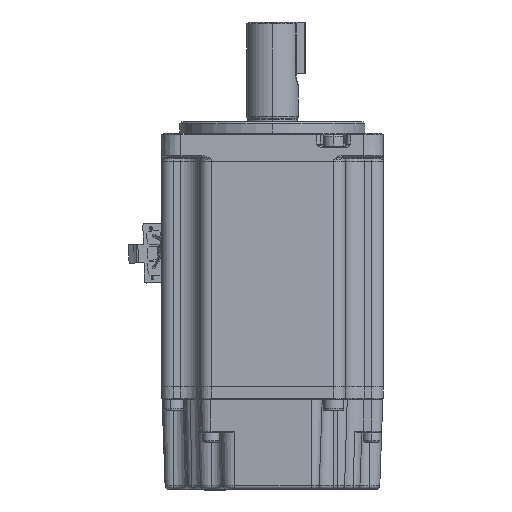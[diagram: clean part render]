
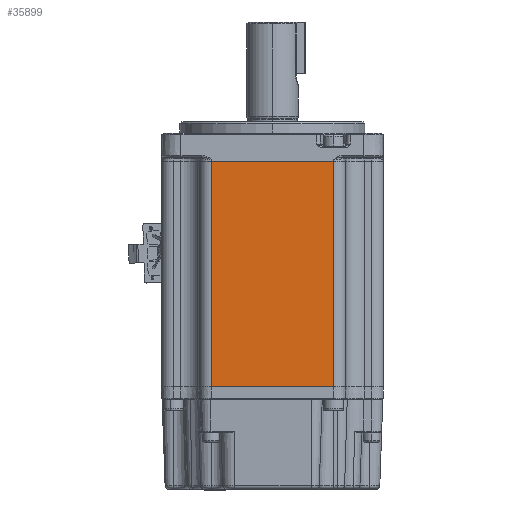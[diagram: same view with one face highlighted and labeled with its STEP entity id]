
A CAD part, front view. The second image highlights one B-rep face of the part: STEP entity #35899.
In plain terms, the highlighted planar face has unit normal (0, -1, 0).
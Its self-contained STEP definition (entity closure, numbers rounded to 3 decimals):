
#1453 = EDGE_CURVE ( 'NONE', #37469, #40617, #31346, .T. ) ;
#4244 = FACE_OUTER_BOUND ( 'NONE', #19718, .T. ) ;
#9441 = LINE ( 'NONE', #32017, #51644 ) ;
#10078 = CARTESIAN_POINT ( 'NONE',  ( -16.551, -30., 30.45 ) ) ;
#11326 = CARTESIAN_POINT ( 'NONE',  ( -16.551, -30., 31.45 ) ) ;
#11518 = DIRECTION ( 'NONE',  ( 1., 0., 0. ) ) ;
#17264 = CARTESIAN_POINT ( 'NONE',  ( -16.551, -30., 30.45 ) ) ;
#19689 = DIRECTION ( 'NONE',  ( 0., 1., 0. ) ) ;
#19718 = EDGE_LOOP ( 'NONE', ( #20704, #42518, #36776, #26584 ) ) ;
#19886 = DIRECTION ( 'NONE',  ( -1., 0., 0. ) ) ;
#20704 = ORIENTED_EDGE ( 'NONE', *, *, #53001, .F. ) ;
#23977 = CARTESIAN_POINT ( 'NONE',  ( -16.551, -30., -30.45 ) ) ;
#24583 = AXIS2_PLACEMENT_3D ( 'NONE', #11326, #19689, #48174 ) ;
#26584 = ORIENTED_EDGE ( 'NONE', *, *, #29495, .T. ) ;
#29495 = EDGE_CURVE ( 'NONE', #37469, #31465, #45683, .T. ) ;
#31346 = LINE ( 'NONE', #10078, #51677 ) ;
#31349 = LINE ( 'NONE', #34702, #40961 ) ;
#31465 = VERTEX_POINT ( 'NONE', #23977 ) ;
#32017 = CARTESIAN_POINT ( 'NONE',  ( -16.551, -30., -30.45 ) ) ;
#34702 = CARTESIAN_POINT ( 'NONE',  ( 16.551, -30., 31.45 ) ) ;
#34870 = VECTOR ( 'NONE', #36783, 1000. ) ;
#35725 = EDGE_CURVE ( 'NONE', #40617, #43729, #31349, .T. ) ;
#35899 = ADVANCED_FACE ( 'NONE', ( #4244 ), #44108, .F. ) ;
#36776 = ORIENTED_EDGE ( 'NONE', *, *, #1453, .F. ) ;
#36783 = DIRECTION ( 'NONE',  ( 0., 0., -1. ) ) ;
#37469 = VERTEX_POINT ( 'NONE', #17264 ) ;
#40617 = VERTEX_POINT ( 'NONE', #48112 ) ;
#40961 = VECTOR ( 'NONE', #50829, 1000. ) ;
#42518 = ORIENTED_EDGE ( 'NONE', *, *, #35725, .F. ) ;
#43028 = CARTESIAN_POINT ( 'NONE',  ( 16.551, -30., -30.45 ) ) ;
#43729 = VERTEX_POINT ( 'NONE', #43028 ) ;
#44108 = PLANE ( 'NONE',  #24583 ) ;
#44792 = CARTESIAN_POINT ( 'NONE',  ( -16.551, -30., 31.45 ) ) ;
#45683 = LINE ( 'NONE', #44792, #34870 ) ;
#48112 = CARTESIAN_POINT ( 'NONE',  ( 16.551, -30., 30.45 ) ) ;
#48174 = DIRECTION ( 'NONE',  ( -1., 0., 0. ) ) ;
#50829 = DIRECTION ( 'NONE',  ( 0., 0., -1. ) ) ;
#51644 = VECTOR ( 'NONE', #19886, 1000. ) ;
#51677 = VECTOR ( 'NONE', #11518, 1000. ) ;
#53001 = EDGE_CURVE ( 'NONE', #43729, #31465, #9441, .T. ) ;
